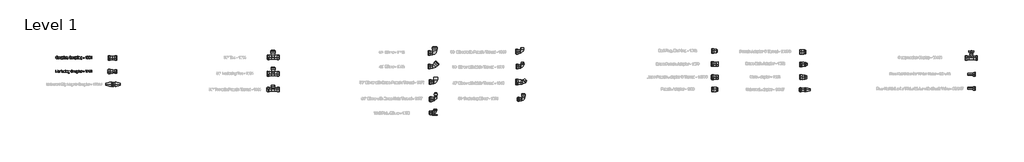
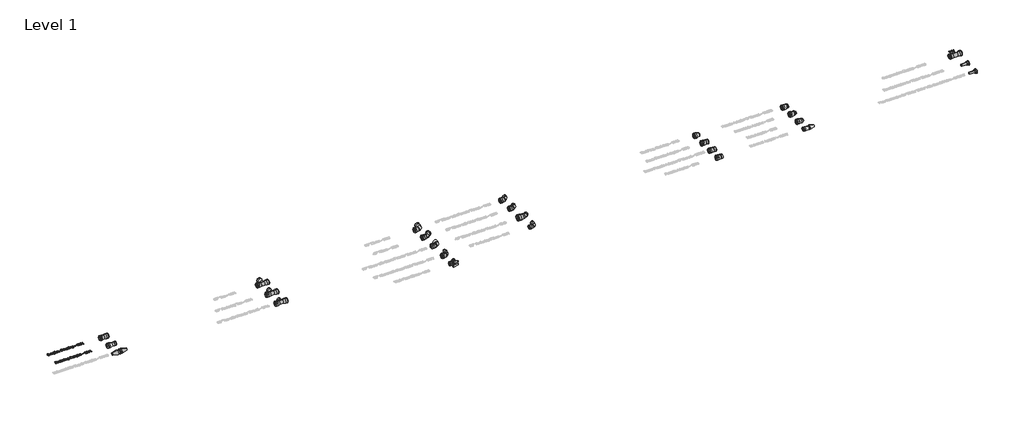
# One storey, part 1 of 13: 26 pipe fittings, 2 proxies.
"""IFC4 building model written with IfcOpenShell, lengths in millimetres."""

from ifc_helpers import new_model, si_unit, origin, origin_with_axes, place, context, project, spatial, polyline, outline, extrude, transform, mapped, element, save
from components import pipe_fitting_c75a0118, pipe_fitting_5ccf9fb8, pipe_fitting_2faa0685, pipe_fitting_6a8e1b83, pipe_fitting_50959c0b, pipe_fitting_002d9347, pipe_fitting_88a6670d, pipe_fitting_3032ae4f, pipe_fitting_b354435d, pipe_fitting_24c858a7, pipe_fitting_c59c5df5, pipe_fitting_ba8de908, pipe_fitting_30391b72, pipe_fitting_22662af9, pipe_fitting_0adbe229, pipe_fitting_8eeb2347, pipe_fitting_8a6a588a, pipe_fitting_73e57031, pipe_fitting_500e536a, pipe_fitting_9204cc5e, pipe_fitting_1734e84b, pipe_fitting_f4047568, pipe_fitting_480f6e4c, pipe_fitting_b861327e, pipe_fitting_3e52993d

model = new_model("IFC4")

# Units and contexts
model_context = context("Model", 3, world=origin())
ifc_project = project(units=[si_unit("LENGTHUNIT", "METRE", prefix="MILLI")], contexts=[model_context])

# Site, building, storey
site = spatial("IfcSite", under=ifc_project)
building = spatial("IfcBuilding", under=site)
storey = spatial("IfcBuildingStorey", under=building, Name="Level 1", Elevation=0.0)

# Proxies
placement = place(None, origin())
element("IfcBuildingElementProxy", 1, Name="30 mm Arial", ObjectType="30 mm Arial", at=placement, inside=storey, context=model_context, shape_type="SweptSolid", body=[
    extrude(outline(polyline([(8199.6821621, 4849.3979554), (8203.3744698, 4848.4460324), (8198.9970659, 4841.0001189), (8191.2662967, 4838.436417), (8183.5824025, 4840.3763208), (8179.0751909, 4845.9941093), (8177.5283159, 4853.8907439), (8179.277114, 4861.9171862), (8184.2494698, 4867.1203112), (8191.3456236, 4868.8979554), (8198.7410563, 4866.5974747), (8202.9129313, 4860.1215131), (8199.2206236, 4859.2417054), (8196.1917775, 4863.7813689), (8191.2013928, 4865.2056477), (8185.4249505, 4863.6263208), (8182.1617294, 4859.3859362), (8181.2206236, 4853.8979554), (8182.3348063, 4847.5373785), (8185.8035563, 4843.4736766), (8190.8985082, 4842.1287247), (8196.5487486, 4843.9604554), (8199.6821621, 4849.3979554)])), origin_with_axes(), (0.0, 0.0, 1.0), 5.0),
    extrude(outline(polyline([(8207.0667775, 4849.7441093), (8210.261489, 4858.6503593), (8216.7662967, 4861.0518016), (8223.7434602, 4858.1275227), (8226.4513928, 4850.0469939), (8225.2542775, 4843.4772824), (8221.7674986, 4839.7597343), (8216.7662967, 4838.436417), (8209.745864, 4841.3498785), (8207.0667775, 4849.7441093)]), holes=[polyline([(8210.7590852, 4849.7513208), (8212.4682198, 4844.0289651), (8216.7662967, 4842.1287247), (8221.0499505, 4844.0397824), (8222.7590852, 4849.8667054), (8221.0391332, 4855.4592535), (8216.7662967, 4857.3594939), (8212.4682198, 4855.4664651), (8210.7590852, 4849.7513208)])]), origin_with_axes(), (0.0, 0.0, 1.0), 5.0),
    extrude(outline(polyline([(8244.4513928, 4838.8979554), (8244.4513928, 4842.6263208), (8237.7879313, 4838.436417), (8234.3155755, 4839.1719939), (8231.9213448, 4841.0181477), (8230.8215852, 4843.7368977), (8230.605239, 4847.1695901), (8230.605239, 4860.5902631), (8234.2975467, 4860.5902631), (8234.2975467, 4848.9075708), (8234.5211044, 4845.1431477), (8235.9814409, 4842.9328112), (8238.7326428, 4842.1287247), (8241.8155755, 4842.9508401), (8243.8528352, 4845.1900227), (8244.4513928, 4849.3042054), (8244.4513928, 4860.5902631), (8248.1437005, 4860.5902631), (8248.1437005, 4838.8979554), (8244.4513928, 4838.8979554)])), origin_with_axes(), (0.0, 0.0, 1.0), 5.0),
    extrude(outline(polyline([(8253.2206236, 4830.5902631), (8253.2206236, 4860.5902631), (8256.9129313, 4860.5902631), (8256.9129313, 4856.9700708), (8259.4658159, 4860.0313689), (8262.9129313, 4861.0518016), (8267.5932198, 4859.623917), (8270.6509121, 4855.5998785), (8271.6821621, 4849.9099747), (8270.5174986, 4843.9280035), (8267.1352871, 4839.8534843), (8262.4658159, 4838.436417), (8259.2530755, 4839.3847343), (8256.9129313, 4841.7825708), (8256.9129313, 4830.5902631), (8253.2206236, 4830.5902631)]), holes=[polyline([(8256.9129313, 4849.5710324), (8258.5102871, 4843.9460324), (8262.386489, 4842.1287247), (8266.3420178, 4844.0109362), (8267.9898544, 4849.8450708), (8266.3816813, 4855.4844939), (8262.5379313, 4857.3594939), (8258.6184602, 4855.3655035), (8256.9129313, 4849.5710324)])]), origin_with_axes(), (0.0, 0.0, 1.0), 5.0),
    extrude(outline(polyline([(8275.8360082, 4838.8979554), (8275.8360082, 4868.436417), (8279.5283159, 4868.436417), (8279.5283159, 4838.8979554), (8275.8360082, 4838.8979554)])), origin_with_axes(), (0.0, 0.0, 1.0), 5.0),
    extrude(outline(polyline([(8300.2542775, 4845.3594939), (8303.8744698, 4844.8979554), (8300.4886525, 4840.1311285), (8294.1821621, 4838.436417), (8286.5162967, 4841.3606958), (8283.6821621, 4849.5638208), (8286.5451428, 4858.0373785), (8293.9730275, 4861.0518016), (8301.1881717, 4858.0445901), (8303.9898544, 4849.5854554), (8287.3744698, 4848.5902631), (8289.4982678, 4843.7945901), (8294.2542775, 4842.1287247), (8297.8744698, 4842.9003593), (8300.2542775, 4845.3594939)]), holes=[polyline([(8287.3744698, 4852.2825708), (8300.2975467, 4852.2825708), (8298.8191813, 4855.6287247), (8293.9586044, 4857.3594939), (8289.4117294, 4855.9784843), (8287.3744698, 4852.2825708)])]), origin_with_axes(), (0.0, 0.0, 1.0), 5.0),
    extrude(outline(polyline([(8307.6821621, 4838.8979554), (8307.6821621, 4860.5902631), (8310.9129313, 4860.5902631), (8310.9129313, 4857.3811285), (8313.2062005, 4860.3378593), (8315.5138928, 4861.0518016), (8319.2206236, 4859.9123785), (8317.9874505, 4856.6022824), (8315.3912967, 4857.3594939), (8313.3035563, 4856.6311285), (8311.9730275, 4854.6118977), (8311.3744698, 4850.2993977), (8311.3744698, 4838.8979554), (8307.6821621, 4838.8979554)])), origin_with_axes(), (0.0, 0.0, 1.0), 5.0),
    extrude(outline(polyline([(8322.4513928, 4838.8979554), (8322.4513928, 4842.5902631), (8326.1437005, 4842.5902631), (8326.1437005, 4838.8979554), (8325.480239, 4835.1227151), (8323.3744698, 4832.8979554), (8322.4513928, 4834.2825708), (8323.8071621, 4835.8763208), (8324.2903352, 4838.8979554), (8322.4513928, 4838.8979554)])), origin_with_axes(), (0.0, 0.0, 1.0), 5.0),
    extrude(outline(polyline([(8365.8360082, 4849.3979554), (8369.5283159, 4848.4460324), (8365.1509121, 4841.0001189), (8357.4201428, 4838.436417), (8349.7362486, 4840.3763208), (8345.2290371, 4845.9941093), (8343.6821621, 4853.8907439), (8345.4309602, 4861.9171862), (8350.4033159, 4867.1203112), (8357.4994698, 4868.8979554), (8364.8949025, 4866.5974747), (8369.0667775, 4860.1215131), (8365.3744698, 4859.2417054), (8362.3456236, 4863.7813689), (8357.355239, 4865.2056477), (8351.5787967, 4863.6263208), (8348.3155755, 4859.3859362), (8347.3744698, 4853.8979554), (8348.4886525, 4847.5373785), (8351.9574025, 4843.4736766), (8357.0523544, 4842.1287247), (8362.7025948, 4843.9604554), (8365.8360082, 4849.3979554)])), origin_with_axes(), (0.0, 0.0, 1.0), 5.0),
    extrude(outline(polyline([(8373.2206236, 4849.7441093), (8376.4153352, 4858.6503593), (8382.9201428, 4861.0518016), (8389.8973063, 4858.1275227), (8392.605239, 4850.0469939), (8391.4081236, 4843.4772824), (8387.9213448, 4839.7597343), (8382.9201428, 4838.436417), (8375.8997102, 4841.3498785), (8373.2206236, 4849.7441093)]), holes=[polyline([(8376.9129313, 4849.7513208), (8378.6220659, 4844.0289651), (8382.9201428, 4842.1287247), (8387.2037967, 4844.0397824), (8388.9129313, 4849.8667054), (8387.1929794, 4855.4592535), (8382.9201428, 4857.3594939), (8378.6220659, 4855.4664651), (8376.9129313, 4849.7513208)])]), origin_with_axes(), (0.0, 0.0, 1.0), 5.0),
    extrude(outline(polyline([(8410.605239, 4838.8979554), (8410.605239, 4842.6263208), (8403.9417775, 4838.436417), (8400.4694217, 4839.1719939), (8398.0751909, 4841.0181477), (8396.9754313, 4843.7368977), (8396.7590852, 4847.1695901), (8396.7590852, 4860.5902631), (8400.4513928, 4860.5902631), (8400.4513928, 4848.9075708), (8400.6749505, 4845.1431477), (8402.1352871, 4842.9328112), (8404.886489, 4842.1287247), (8407.9694217, 4842.9508401), (8410.0066813, 4845.1900227), (8410.605239, 4849.3042054), (8410.605239, 4860.5902631), (8414.2975467, 4860.5902631), (8414.2975467, 4838.8979554), (8410.605239, 4838.8979554)])), origin_with_axes(), (0.0, 0.0, 1.0), 5.0),
    extrude(outline(polyline([(8419.3744698, 4830.5902631), (8419.3744698, 4860.5902631), (8423.0667775, 4860.5902631), (8423.0667775, 4856.9700708), (8425.6196621, 4860.0313689), (8429.0667775, 4861.0518016), (8433.7470659, 4859.623917), (8436.8047582, 4855.5998785), (8437.8360082, 4849.9099747), (8436.6713448, 4843.9280035), (8433.2891332, 4839.8534843), (8428.6196621, 4838.436417), (8425.4069217, 4839.3847343), (8423.0667775, 4841.7825708), (8423.0667775, 4830.5902631), (8419.3744698, 4830.5902631)]), holes=[polyline([(8423.0667775, 4849.5710324), (8424.6641332, 4843.9460324), (8428.5403352, 4842.1287247), (8432.495864, 4844.0109362), (8434.1437005, 4849.8450708), (8432.5355275, 4855.4844939), (8428.6917775, 4857.3594939), (8424.7723063, 4855.3655035), (8423.0667775, 4849.5710324)])]), origin_with_axes(), (0.0, 0.0, 1.0), 5.0),
    extrude(outline(polyline([(8441.9898544, 4838.8979554), (8441.9898544, 4868.436417), (8445.6821621, 4868.436417), (8445.6821621, 4838.8979554), (8441.9898544, 4838.8979554)])), origin_with_axes(), (0.0, 0.0, 1.0), 5.0),
    extrude(outline(polyline([(8451.2206236, 4838.8979554), (8451.2206236, 4860.5902631), (8454.9129313, 4860.5902631), (8454.9129313, 4838.8979554), (8451.2206236, 4838.8979554)])), origin_with_axes(), (0.0, 0.0, 1.0), 5.0),
    extrude(outline(polyline([(8451.2206236, 4864.7441093), (8451.2206236, 4868.436417), (8454.9129313, 4868.436417), (8454.9129313, 4864.7441093), (8451.2206236, 4864.7441093)])), origin_with_axes(), (0.0, 0.0, 1.0), 5.0),
    extrude(outline(polyline([(8460.4513928, 4838.8979554), (8460.4513928, 4860.5902631), (8464.1437005, 4860.5902631), (8464.1437005, 4857.561417), (8470.8215852, 4861.0518016), (8474.308364, 4860.3486766), (8476.6881717, 4858.5025227), (8477.7951428, 4855.7873785), (8477.9898544, 4852.217667), (8477.9898544, 4838.8979554), (8474.2975467, 4838.8979554), (8474.2975467, 4851.7200708), (8473.8720659, 4854.9868977), (8472.3684602, 4856.7140612), (8469.8336044, 4857.3594939), (8465.8275948, 4855.9099747), (8464.1437005, 4850.4075708), (8464.1437005, 4838.8979554), (8460.4513928, 4838.8979554)])), origin_with_axes(), (0.0, 0.0, 1.0), 5.0),
    extrude(outline(polyline([(8482.1437005, 4837.0518016), (8485.8360082, 4836.5902631), (8487.0331236, 4834.6431477), (8490.6172582, 4833.8210324), (8494.3961044, 4834.7513208), (8496.198989, 4837.3618977), (8496.4513928, 4841.6671862), (8490.6821621, 4838.8979554), (8484.0367294, 4842.1215131), (8481.6821621, 4849.8522824), (8482.7386525, 4855.5746381), (8485.7963448, 4859.623917), (8490.5018736, 4861.0518016), (8496.4513928, 4857.8210324), (8496.4513928, 4860.5902631), (8500.1437005, 4860.5902631), (8500.1437005, 4841.8618977), (8499.1340852, 4834.6900227), (8495.9357678, 4831.3546862), (8490.5451428, 4830.1287247), (8484.4045178, 4831.8558881), (8482.1437005, 4837.0518016)]), holes=[polyline([(8485.3744698, 4850.1046862), (8486.9501909, 4844.389542), (8490.9057198, 4842.5902631), (8494.8540371, 4844.3787247), (8496.4513928, 4849.9965131), (8494.8071621, 4855.5025227), (8490.8480275, 4857.3594939), (8486.9718255, 4855.5313689), (8485.3744698, 4850.1046862)])]), origin_with_axes(), (0.0, 0.0, 1.0), 5.0),
    extrude(outline(polyline([(8515.3744698, 4847.6671862), (8515.3744698, 4851.3594939), (8526.9129313, 4851.3594939), (8526.9129313, 4847.6671862), (8515.3744698, 4847.6671862)])), origin_with_axes(), (0.0, 0.0, 1.0), 5.0),
    extrude(outline(polyline([(8555.5283159, 4838.8979554), (8551.8360082, 4838.8979554), (8551.8360082, 4861.9171862), (8548.3384121, 4859.4255997), (8544.4513928, 4857.561417), (8544.4513928, 4861.0518016), (8549.8636525, 4864.5061285), (8553.1485082, 4868.436417), (8555.5283159, 4868.436417), (8555.5283159, 4838.8979554)])), origin_with_axes(), (0.0, 0.0, 1.0), 5.0),
    extrude(outline(polyline([(8564.2975467, 4853.4292054), (8565.3828832, 4861.9280035), (8568.6064409, 4866.8282439), (8573.9898544, 4868.436417), (8578.3023544, 4867.4844939), (8581.2807198, 4864.7405035), (8583.011489, 4860.3703112), (8583.6821621, 4853.4292054), (8582.6076428, 4844.9664651), (8579.3949025, 4840.0554074), (8573.9898544, 4838.436417), (8567.2398544, 4841.248917), (8564.2975467, 4853.4292054)]), holes=[polyline([(8567.9898544, 4853.436417), (8569.7206236, 4844.2669458), (8573.9898544, 4842.1287247), (8578.2590852, 4844.2741574), (8579.9898544, 4853.436417), (8578.3167775, 4862.5013208), (8573.9465852, 4864.7441093), (8569.7783159, 4862.7681477), (8567.9898544, 4853.436417)])]), origin_with_axes(), (0.0, 0.0, 1.0), 5.0),
    extrude(outline(polyline([(8586.9129313, 4853.4292054), (8587.9982678, 4861.9280035), (8591.2218255, 4866.8282439), (8596.605239, 4868.436417), (8600.917739, 4867.4844939), (8603.8961044, 4864.7405035), (8605.6268736, 4860.3703112), (8606.2975467, 4853.4292054), (8605.2230275, 4844.9664651), (8602.0102871, 4840.0554074), (8596.605239, 4838.436417), (8589.855239, 4841.248917), (8586.9129313, 4853.4292054)]), holes=[polyline([(8590.605239, 4853.436417), (8592.3360082, 4844.2669458), (8596.605239, 4842.1287247), (8600.8744698, 4844.2741574), (8602.605239, 4853.436417), (8600.9321621, 4862.5013208), (8596.5619698, 4864.7441093), (8592.3937005, 4862.7681477), (8590.605239, 4853.436417)])]), origin_with_axes(), (0.0, 0.0, 1.0), 5.0),
    extrude(outline(polyline([(8623.3744698, 4838.8979554), (8619.6821621, 4838.8979554), (8619.6821621, 4861.9171862), (8616.1845659, 4859.4255997), (8612.2975467, 4857.561417), (8612.2975467, 4861.0518016), (8617.7098063, 4864.5061285), (8620.9946621, 4868.436417), (8623.3744698, 4868.436417), (8623.3744698, 4838.8979554)])), origin_with_axes(), (0.0, 0.0, 1.0), 5.0),
])
element("IfcBuildingElementProxy", 2, Name="30 mm Arial", ObjectType="30 mm Arial", at=placement, inside=storey, context=model_context, shape_type="SweptSolid", body=[
    extrude(outline(polyline([(8178.9129313, 4668.8979554), (8178.9129313, 4698.436417), (8191.6412967, 4698.436417), (8197.5511525, 4697.639542), (8200.7819217, 4694.8198304), (8201.9898544, 4690.3522824), (8199.9886525, 4685.030167), (8193.8047582, 4682.2825708), (8195.9033159, 4680.7032439), (8198.8961044, 4676.9027631), (8203.8215852, 4668.8979554), (8199.5307198, 4668.8979554), (8195.6869698, 4675.0205516), (8192.9105275, 4679.0734362), (8190.9598063, 4680.9880997), (8189.2037967, 4681.6912247), (8187.0619698, 4681.8210324), (8182.605239, 4681.8210324), (8182.605239, 4668.8979554), (8178.9129313, 4668.8979554)]), holes=[polyline([(8182.605239, 4685.5133401), (8190.8696621, 4685.5133401), (8195.0848063, 4686.0361766), (8197.4790371, 4687.7092535), (8198.2975467, 4690.2152631), (8196.7362486, 4693.467667), (8191.7999505, 4694.7441093), (8182.605239, 4694.7441093), (8182.605239, 4685.5133401)])]), origin_with_axes(), (0.0, 0.0, 1.0), 5.0),
    extrude(outline(polyline([(8223.1773544, 4675.3594939), (8226.7975467, 4674.8979554), (8223.4117294, 4670.1311285), (8217.105239, 4668.436417), (8209.4393736, 4671.3606958), (8206.605239, 4679.5638208), (8209.4682198, 4688.0373785), (8216.8961044, 4691.0518016), (8224.1112486, 4688.0445901), (8226.9129313, 4679.5854554), (8210.2975467, 4678.5902631), (8212.4213448, 4673.7945901), (8217.1773544, 4672.1287247), (8220.7975467, 4672.9003593), (8223.1773544, 4675.3594939)]), holes=[polyline([(8210.2975467, 4682.2825708), (8223.2206236, 4682.2825708), (8221.7422582, 4685.6287247), (8216.8816813, 4687.3594939), (8212.3348063, 4685.9784843), (8210.2975467, 4682.2825708)])]), origin_with_axes(), (0.0, 0.0, 1.0), 5.0),
    extrude(outline(polyline([(8243.9898544, 4668.8979554), (8243.9898544, 4672.3811285), (8238.1701428, 4668.436417), (8233.5980275, 4669.8643016), (8230.3672582, 4673.8486766), (8229.2206236, 4679.7224747), (8230.277114, 4685.5998785), (8233.4429794, 4689.6455516), (8238.1557198, 4691.0518016), (8241.5595659, 4690.045792), (8243.9898544, 4687.4316093), (8243.9898544, 4698.436417), (8247.6821621, 4698.436417), (8247.6821621, 4668.8979554), (8243.9898544, 4668.8979554)]), holes=[polyline([(8232.9129313, 4679.7368977), (8234.5787967, 4674.0217535), (8238.5090852, 4672.1287247), (8242.3924986, 4673.9352151), (8243.9898544, 4679.4556477), (8242.3636525, 4685.4484362), (8238.3576428, 4687.3594939), (8234.4706236, 4685.5241574), (8232.9129313, 4679.7368977)])]), origin_with_axes(), (0.0, 0.0, 1.0), 5.0),
    extrude(outline(polyline([(8267.0667775, 4668.8979554), (8267.0667775, 4672.6263208), (8260.4033159, 4668.436417), (8256.9309602, 4669.1719939), (8254.5367294, 4671.0181477), (8253.4369698, 4673.7368977), (8253.2206236, 4677.1695901), (8253.2206236, 4690.5902631), (8256.9129313, 4690.5902631), (8256.9129313, 4678.9075708), (8257.136489, 4675.1431477), (8258.5968255, 4672.9328112), (8261.3480275, 4672.1287247), (8264.4309602, 4672.9508401), (8266.4682198, 4675.1900227), (8267.0667775, 4679.3042054), (8267.0667775, 4690.5902631), (8270.7590852, 4690.5902631), (8270.7590852, 4668.8979554), (8267.0667775, 4668.8979554)])), origin_with_axes(), (0.0, 0.0, 1.0), 5.0),
    extrude(outline(polyline([(8289.6821621, 4676.7441093), (8293.3744698, 4676.2825708), (8290.4105275, 4670.5169458), (8284.5547582, 4668.436417), (8277.5559602, 4671.3390612), (8274.9129313, 4679.6647824), (8276.0415371, 4685.7981958), (8279.4814409, 4689.7393016), (8284.5042775, 4691.0518016), (8290.1184602, 4689.248917), (8292.9129313, 4684.1287247), (8289.2206236, 4683.6671862), (8287.5078832, 4686.4328112), (8284.5331236, 4687.3594939), (8280.2530755, 4685.5349747), (8278.605239, 4679.7657439), (8280.2170178, 4673.9424266), (8284.4321621, 4672.1287247), (8287.9117294, 4673.2609362), (8289.6821621, 4676.7441093)])), origin_with_axes(), (0.0, 0.0, 1.0), 5.0),
    extrude(outline(polyline([(8296.605239, 4694.7441093), (8296.605239, 4698.436417), (8300.2975467, 4698.436417), (8300.2975467, 4694.7441093), (8296.605239, 4694.7441093)])), origin_with_axes(), (0.0, 0.0, 1.0), 5.0),
    extrude(outline(polyline([(8296.605239, 4668.8979554), (8296.605239, 4690.5902631), (8300.2975467, 4690.5902631), (8300.2975467, 4668.8979554), (8296.605239, 4668.8979554)])), origin_with_axes(), (0.0, 0.0, 1.0), 5.0),
    extrude(outline(polyline([(8305.8360082, 4668.8979554), (8305.8360082, 4690.5902631), (8309.5283159, 4690.5902631), (8309.5283159, 4687.561417), (8316.2062005, 4691.0518016), (8319.6929794, 4690.3486766), (8322.0727871, 4688.5025227), (8323.1797582, 4685.7873785), (8323.3744698, 4682.217667), (8323.3744698, 4668.8979554), (8319.6821621, 4668.8979554), (8319.6821621, 4681.7200708), (8319.2566813, 4684.9868977), (8317.7530755, 4686.7140612), (8315.2182198, 4687.3594939), (8311.2122102, 4685.9099747), (8309.5283159, 4680.4075708), (8309.5283159, 4668.8979554), (8305.8360082, 4668.8979554)])), origin_with_axes(), (0.0, 0.0, 1.0), 5.0),
    extrude(outline(polyline([(8327.5283159, 4667.0518016), (8331.2206236, 4666.5902631), (8332.417739, 4664.6431477), (8336.0018736, 4663.8210324), (8339.7807198, 4664.7513208), (8341.5836044, 4667.3618977), (8341.8360082, 4671.6671862), (8336.0667775, 4668.8979554), (8329.4213448, 4672.1215131), (8327.0667775, 4679.8522824), (8328.1232678, 4685.5746381), (8331.1809602, 4689.623917), (8335.886489, 4691.0518016), (8341.8360082, 4687.8210324), (8341.8360082, 4690.5902631), (8345.5283159, 4690.5902631), (8345.5283159, 4671.8618977), (8344.5187005, 4664.6900227), (8341.3203832, 4661.3546862), (8335.9297582, 4660.1287247), (8329.7891332, 4661.8558881), (8327.5283159, 4667.0518016)]), holes=[polyline([(8330.7590852, 4680.1046862), (8332.3348063, 4674.389542), (8336.2903352, 4672.5902631), (8340.2386525, 4674.3787247), (8341.8360082, 4679.9965131), (8340.1917775, 4685.5025227), (8336.2326428, 4687.3594939), (8332.3564409, 4685.5313689), (8330.7590852, 4680.1046862)])]), origin_with_axes(), (0.0, 0.0, 1.0), 5.0),
    extrude(outline(polyline([(8383.8360082, 4679.3979554), (8387.5283159, 4678.4460324), (8383.1509121, 4671.0001189), (8375.4201428, 4668.436417), (8367.7362486, 4670.3763208), (8363.2290371, 4675.9941093), (8361.6821621, 4683.8907439), (8363.4309602, 4691.9171862), (8368.4033159, 4697.1203112), (8375.4994698, 4698.8979554), (8382.8949025, 4696.5974747), (8387.0667775, 4690.1215131), (8383.3744698, 4689.2417054), (8380.3456236, 4693.7813689), (8375.355239, 4695.2056477), (8369.5787967, 4693.6263208), (8366.3155755, 4689.3859362), (8365.3744698, 4683.8979554), (8366.4886525, 4677.5373785), (8369.9574025, 4673.4736766), (8375.0523544, 4672.1287247), (8380.7025948, 4673.9604554), (8383.8360082, 4679.3979554)])), origin_with_axes(), (0.0, 0.0, 1.0), 5.0),
    extrude(outline(polyline([(8391.2206236, 4679.7441093), (8394.4153352, 4688.6503593), (8400.9201428, 4691.0518016), (8407.8973063, 4688.1275227), (8410.605239, 4680.0469939), (8409.4081236, 4673.4772824), (8405.9213448, 4669.7597343), (8400.9201428, 4668.436417), (8393.8997102, 4671.3498785), (8391.2206236, 4679.7441093)]), holes=[polyline([(8394.9129313, 4679.7513208), (8396.6220659, 4674.0289651), (8400.9201428, 4672.1287247), (8405.2037967, 4674.0397824), (8406.9129313, 4679.8667054), (8405.1929794, 4685.4592535), (8400.9201428, 4687.3594939), (8396.6220659, 4685.4664651), (8394.9129313, 4679.7513208)])]), origin_with_axes(), (0.0, 0.0, 1.0), 5.0),
    extrude(outline(polyline([(8428.605239, 4668.8979554), (8428.605239, 4672.6263208), (8421.9417775, 4668.436417), (8418.4694217, 4669.1719939), (8416.0751909, 4671.0181477), (8414.9754313, 4673.7368977), (8414.7590852, 4677.1695901), (8414.7590852, 4690.5902631), (8418.4513928, 4690.5902631), (8418.4513928, 4678.9075708), (8418.6749505, 4675.1431477), (8420.1352871, 4672.9328112), (8422.886489, 4672.1287247), (8425.9694217, 4672.9508401), (8428.0066813, 4675.1900227), (8428.605239, 4679.3042054), (8428.605239, 4690.5902631), (8432.2975467, 4690.5902631), (8432.2975467, 4668.8979554), (8428.605239, 4668.8979554)])), origin_with_axes(), (0.0, 0.0, 1.0), 5.0),
    extrude(outline(polyline([(8437.3744698, 4660.5902631), (8437.3744698, 4690.5902631), (8441.0667775, 4690.5902631), (8441.0667775, 4686.9700708), (8443.6196621, 4690.0313689), (8447.0667775, 4691.0518016), (8451.7470659, 4689.623917), (8454.8047582, 4685.5998785), (8455.8360082, 4679.9099747), (8454.6713448, 4673.9280035), (8451.2891332, 4669.8534843), (8446.6196621, 4668.436417), (8443.4069217, 4669.3847343), (8441.0667775, 4671.7825708), (8441.0667775, 4660.5902631), (8437.3744698, 4660.5902631)]), holes=[polyline([(8441.0667775, 4679.5710324), (8442.6641332, 4673.9460324), (8446.5403352, 4672.1287247), (8450.495864, 4674.0109362), (8452.1437005, 4679.8450708), (8450.5355275, 4685.4844939), (8446.6917775, 4687.3594939), (8442.7723063, 4685.3655035), (8441.0667775, 4679.5710324)])]), origin_with_axes(), (0.0, 0.0, 1.0), 5.0),
    extrude(outline(polyline([(8459.9898544, 4668.8979554), (8459.9898544, 4698.436417), (8463.6821621, 4698.436417), (8463.6821621, 4668.8979554), (8459.9898544, 4668.8979554)])), origin_with_axes(), (0.0, 0.0, 1.0), 5.0),
    extrude(outline(polyline([(8484.4081236, 4675.3594939), (8488.0283159, 4674.8979554), (8484.6424986, 4670.1311285), (8478.3360082, 4668.436417), (8470.6701428, 4671.3606958), (8467.8360082, 4679.5638208), (8470.698989, 4688.0373785), (8478.1268736, 4691.0518016), (8485.3420178, 4688.0445901), (8488.1437005, 4679.5854554), (8471.5283159, 4678.5902631), (8473.652114, 4673.7945901), (8478.4081236, 4672.1287247), (8482.0283159, 4672.9003593), (8484.4081236, 4675.3594939)]), holes=[polyline([(8471.5283159, 4682.2825708), (8484.4513928, 4682.2825708), (8482.9730275, 4685.6287247), (8478.1124505, 4687.3594939), (8473.5655755, 4685.9784843), (8471.5283159, 4682.2825708)])]), origin_with_axes(), (0.0, 0.0, 1.0), 5.0),
    extrude(outline(polyline([(8491.8360082, 4668.8979554), (8491.8360082, 4690.5902631), (8495.0667775, 4690.5902631), (8495.0667775, 4687.3811285), (8497.3600467, 4690.3378593), (8499.667739, 4691.0518016), (8503.3744698, 4689.9123785), (8502.1412967, 4686.6022824), (8499.5451428, 4687.3594939), (8497.4574025, 4686.6311285), (8496.1268736, 4684.6118977), (8495.5283159, 4680.2993977), (8495.5283159, 4668.8979554), (8491.8360082, 4668.8979554)])), origin_with_axes(), (0.0, 0.0, 1.0), 5.0),
    extrude(outline(polyline([(8515.3744698, 4677.6671862), (8515.3744698, 4681.3594939), (8526.9129313, 4681.3594939), (8526.9129313, 4677.6671862), (8515.3744698, 4677.6671862)])), origin_with_axes(), (0.0, 0.0, 1.0), 5.0),
    extrude(outline(polyline([(8555.5283159, 4668.8979554), (8551.8360082, 4668.8979554), (8551.8360082, 4691.9171862), (8548.3384121, 4689.4255997), (8544.4513928, 4687.561417), (8544.4513928, 4691.0518016), (8549.8636525, 4694.5061285), (8553.1485082, 4698.436417), (8555.5283159, 4698.436417), (8555.5283159, 4668.8979554)])), origin_with_axes(), (0.0, 0.0, 1.0), 5.0),
    extrude(outline(polyline([(8564.2975467, 4683.4292054), (8565.3828832, 4691.9280035), (8568.6064409, 4696.8282439), (8573.9898544, 4698.436417), (8578.3023544, 4697.4844939), (8581.2807198, 4694.7405035), (8583.011489, 4690.3703112), (8583.6821621, 4683.4292054), (8582.6076428, 4674.9664651), (8579.3949025, 4670.0554074), (8573.9898544, 4668.436417), (8567.2398544, 4671.248917), (8564.2975467, 4683.4292054)]), holes=[polyline([(8567.9898544, 4683.436417), (8569.7206236, 4674.2669458), (8573.9898544, 4672.1287247), (8578.2590852, 4674.2741574), (8579.9898544, 4683.436417), (8578.3167775, 4692.5013208), (8573.9465852, 4694.7441093), (8569.7783159, 4692.7681477), (8567.9898544, 4683.436417)])]), origin_with_axes(), (0.0, 0.0, 1.0), 5.0),
    extrude(outline(polyline([(8600.7590852, 4668.8979554), (8597.0667775, 4668.8979554), (8597.0667775, 4691.9171862), (8593.5691813, 4689.4255997), (8589.6821621, 4687.561417), (8589.6821621, 4691.0518016), (8595.0944217, 4694.5061285), (8598.3792775, 4698.436417), (8600.7590852, 4698.436417), (8600.7590852, 4668.8979554)])), origin_with_axes(), (0.0, 0.0, 1.0), 5.0),
    extrude(outline(polyline([(8623.3744698, 4668.8979554), (8619.6821621, 4668.8979554), (8619.6821621, 4691.9171862), (8616.1845659, 4689.4255997), (8612.2975467, 4687.561417), (8612.2975467, 4691.0518016), (8617.7098063, 4694.5061285), (8620.9946621, 4698.436417), (8623.3744698, 4698.436417), (8623.3744698, 4668.8979554)])), origin_with_axes(), (0.0, 0.0, 1.0), 5.0),
])

# Pipe fittings
pipe_fitting_shape = pipe_fitting_c75a0118(model_context)
element("IfcPipeFitting", 3, ObjectType="Plumbing_Pipe-Fittings_Plasson_Elbow-45_1006 : Plumbing_Pipe-Fittings_Plasson_Elbow-45_1006", at=placement, inside=storey, context=model_context, shape_type="MappedRepresentation", body=[
    mapped(pipe_fitting_shape, transform((12851.5096309, 4743.4691806, 0.0), x_axis=(1.0, 0.0, 0.0), y_axis=(0.0, 1.0, 0.0), z_axis=(0.0, 0.0, 1.0))),
])
pipe_fitting_2_shape = pipe_fitting_5ccf9fb8(model_context)
element("IfcPipeFitting", 4, ObjectType="Plumbing_Pipe-Fittings_Plasson_Elbow-45-with-Threaded-Male-Offtake_1045 : Plumbing_Pipe-Fittings_Plasson_Elbow-45-with-Threaded-Male-Offtake_1045", at=placement, inside=storey, context=model_context, shape_type="MappedRepresentation", body=[
    mapped(pipe_fitting_2_shape, transform((13962.4453678, 4549.1120972, 0.0), x_axis=(1.0, 0.0, 0.0), y_axis=(0.0, 1.0, 0.0), z_axis=(0.0, 0.0, 1.0))),
])
pipe_fitting_3_shape = pipe_fitting_2faa0685(model_context)
element("IfcPipeFitting", 5, ObjectType="Plumbing_Pipe-Fittings_Plasson_Elbow-90-with-Threaded-Brass-Female-Offtake_1076 : Plumbing_Pipe-Fittings_Plasson_Elbow-90-with-Threaded-Brass-Female-Offtake_1076", at=placement, inside=storey, context=model_context, shape_type="MappedRepresentation", body=[
    mapped(pipe_fitting_3_shape, transform((12875.4709403, 4550.9742181, 0.0), x_axis=(1.0, 0.0, 0.0), y_axis=(0.0, 1.0, 0.0), z_axis=(0.0, 0.0, 1.0))),
])
pipe_fitting_4_shape = pipe_fitting_6a8e1b83(model_context)
element("IfcPipeFitting", 6, ObjectType="Plumbing_Pipe-Fittings_Plasson_Elbow-90-with-Threaded-Brass-Male-Offtake_1077 : Plumbing_Pipe-Fittings_Plasson_Elbow-90-with-Threaded-Brass-Male-Offtake_1077", at=placement, inside=storey, context=model_context, shape_type="MappedRepresentation", body=[
    mapped(pipe_fitting_4_shape, transform((12879.1572956, 4338.4792556, 0.0), x_axis=(1.0, 0.0, 0.0), y_axis=(0.0, 1.0, 0.0), z_axis=(0.0, 0.0, 1.0))),
])
pipe_fitting_5_shape = pipe_fitting_50959c0b(model_context)
element("IfcPipeFitting", 7, ObjectType="Plumbing_Pipe-Fittings_Plasson_Reducing-Elbow-90_1051 : Plumbing_Pipe-Fittings_Plasson_Reducing-Elbow-90_1051", at=placement, inside=storey, context=model_context, shape_type="MappedRepresentation", body=[
    mapped(pipe_fitting_5_shape, transform((13962.7565138, 4337.3701847, 0.0), x_axis=(1.0, 0.0, 0.0), y_axis=(0.0, 1.0, 0.0), z_axis=(0.0, 0.0, 1.0))),
])
pipe_fitting_6_shape = pipe_fitting_002d9347(model_context)
element("IfcPipeFitting", 8, ObjectType="Plumbing_Pipe-Fittings_Plasson_Universal-Adaptor_10017 : Plumbing_Pipe-Fittings_Plasson_Universal-Adaptor_10017", at=placement, inside=storey, context=model_context, shape_type="MappedRepresentation", body=[
    mapped(pipe_fitting_6_shape, transform((17446.4553711, 4455.1830816, 0.0), x_axis=(-1.0, 0.0, 0.0), y_axis=(0.0, -1.0, 0.0), z_axis=(0.0, 0.0, 1.0))),
])
pipe_fitting_7_shape = pipe_fitting_88a6670d(model_context)
element("IfcPipeFitting", 9, ObjectType="Plumbing_Pipe-Fittings_Plasson_Universal-Slip-Repair-Coupler_17610 : Plumbing_Pipe-Fittings_Plasson_Universal-Slip-Repair-Coupler_17610", at=placement, inside=storey, context=model_context, shape_type="MappedRepresentation", body=[
    mapped(pipe_fitting_7_shape, transform((8884.7510299, 4523.1823888, 0.0), x_axis=(1.0, 0.0, 0.0), y_axis=(0.0, 1.0, 0.0), z_axis=(0.0, 0.0, 1.0))),
])
pipe_fitting_8_shape = pipe_fitting_3032ae4f(model_context)
element("IfcPipeFitting", 10, ObjectType="Plumbing_Pipe-Fittings_Plasson_End-Plug_1012 : Plumbing_Pipe-Fittings_Plasson_End-Plug_1012", at=placement, inside=storey, context=model_context, shape_type="MappedRepresentation", body=[
    mapped(pipe_fitting_8_shape, transform((16358.8051065, 4934.7103955, 0.0), x_axis=(-1.0, 0.0, 0.0), y_axis=(0.0, -1.0, 0.0), z_axis=(0.0, 0.0, 1.0))),
])
pipe_fitting_9_shape = pipe_fitting_b354435d(model_context)
element("IfcPipeFitting", 11, ObjectType="Plumbing_Pipe-Fittings_Plasson_Elbow-90_1005 : Plumbing_Pipe-Fittings_Plasson_Elbow-90_1005", at=placement, inside=storey, context=model_context, shape_type="MappedRepresentation", body=[
    mapped(pipe_fitting_9_shape, transform((12864.9617468, 4908.4922071, 0.0), x_axis=(1.0, 0.0, 0.0), y_axis=(0.0, 1.0, 0.0), z_axis=(0.0, 0.0, 1.0))),
])
pipe_fitting_10_shape = pipe_fitting_24c858a7(model_context)
element("IfcPipeFitting", 12, ObjectType="Plumbing_Pipe-Fittings_Plasson_Elbow-90-with-Threaded-Female-Offtake_1015 : Plumbing_Pipe-Fittings_Plasson_Elbow-90-with-Threaded-Female-Offtake_1015", at=placement, inside=storey, context=model_context, shape_type="MappedRepresentation", body=[
    mapped(pipe_fitting_10_shape, transform((13948.471147, 4926.2664682, 0.0), x_axis=(1.0, 0.0, 0.0), y_axis=(0.0, 1.0, 0.0), z_axis=(0.0, 0.0, 1.0))),
])
pipe_fitting_11_shape = pipe_fitting_c59c5df5(model_context)
element("IfcPipeFitting", 13, ObjectType="Plumbing_Pipe-Fittings_Plasson_Elbow-90-with-Threaded-Male-Offtake_1085 : Plumbing_Pipe-Fittings_Plasson_Elbow-90-with-Threaded-Male-Offtake_1085", at=placement, inside=storey, context=model_context, shape_type="MappedRepresentation", body=[
    mapped(pipe_fitting_11_shape, transform((13951.6326754, 4743.7284758, 0.0), x_axis=(1.0, 0.0, 0.0), y_axis=(0.0, 1.0, 0.0), z_axis=(0.0, 0.0, 1.0))),
])
pipe_fitting_12_shape = pipe_fitting_ba8de908(model_context)
element("IfcPipeFitting", 14, ObjectType="Plumbing_Pipe-Fittings_Plasson_Female Adaptor-with-Threaded-Brass-Offtake_1073 : Plumbing_Pipe-Fittings_Plasson_Female Adaptor-with-Threaded-Brass-Offtake_1073", at=placement, inside=storey, context=model_context, shape_type="MappedRepresentation", body=[
    mapped(pipe_fitting_12_shape, transform((16372.3333274, 4773.1976934, 0.0), x_axis=(1.0, 0.0, 0.0), y_axis=(0.0, 1.0, 0.0), z_axis=(0.0, 0.0, 1.0))),
])
pipe_fitting_13_shape = pipe_fitting_30391b72(model_context)
element("IfcPipeFitting", 15, ObjectType="Plumbing_Pipe-Fittings_Plasson_Female-Adaptor-with-Threaded-G-Brass-Offtake_1073G : Plumbing_Pipe-Fittings_Plasson_Female-Adaptor-with-Threaded-G-Brass-Offtake_1073G", at=placement, inside=storey, context=model_context, shape_type="MappedRepresentation", body=[
    mapped(pipe_fitting_13_shape, transform((16373.4004914, 4610.1750549, 0.0), x_axis=(1.0, 0.0, 0.0), y_axis=(0.0, 1.0, 0.0), z_axis=(0.0, 0.0, 1.0))),
])
pipe_fitting_14_shape = pipe_fitting_22662af9(model_context)
element("IfcPipeFitting", 16, ObjectType="Plumbing_Pipe-Fittings_Plasson_Female-Adaptor_1003 : Plumbing_Pipe-Fittings_Plasson_Female-Adaptor_1003", at=placement, inside=storey, context=model_context, shape_type="MappedRepresentation", body=[
    mapped(pipe_fitting_14_shape, transform((16352.272734, 4458.104264, 0.0), x_axis=(-1.0, 0.0, 0.0), y_axis=(0.0, -1.0, 0.0), z_axis=(0.0, 0.0, 1.0))),
])
pipe_fitting_15_shape = pipe_fitting_0adbe229(model_context)
element("IfcPipeFitting", 17, ObjectType="Plumbing_Pipe-Fittings_Plasson_Female-Adaptor_1003G : Plumbing_Pipe-Fittings_Plasson_Female-Adaptor_1003G", at=placement, inside=storey, context=model_context, shape_type="MappedRepresentation", body=[
    mapped(pipe_fitting_15_shape, transform((17444.1629261, 4922.3972976, 0.0), x_axis=(-1.0, 0.0, 0.0), y_axis=(0.0, -1.0, 0.0), z_axis=(0.0, 0.0, 1.0))),
])
pipe_fitting_16_shape = pipe_fitting_8eeb2347(model_context)
element("IfcPipeFitting", 18, ObjectType="Plumbing_Pipe-Fittings_Plasson_Male-Adaptor-with-Threaded-Brass-Offtake_1072 : Plumbing_Pipe-Fittings_Plasson_Male-Adaptor-with-Threaded-Brass-Offtake_1072", at=placement, inside=storey, context=model_context, shape_type="MappedRepresentation", body=[
    mapped(pipe_fitting_16_shape, transform((17455.0851572, 4768.5320331, 0.0), x_axis=(1.0, 0.0, 0.0), y_axis=(0.0, 1.0, 0.0), z_axis=(0.0, 0.0, 1.0))),
])
pipe_fitting_17_shape = pipe_fitting_8a6a588a(model_context)
element("IfcPipeFitting", 19, ObjectType="Plumbing_Pipe-Fittings_Plasson_Male-Adaptor_1002 : Plumbing_Pipe-Fittings_Plasson_Male-Adaptor_1002", at=placement, inside=storey, context=model_context, shape_type="MappedRepresentation", body=[
    mapped(pipe_fitting_17_shape, transform((17448.4647615, 4609.8340758, 0.0), x_axis=(-1.0, 0.0, 0.0), y_axis=(0.0, -1.0, 0.0), z_axis=(0.0, 0.0, 1.0))),
])
pipe_fitting_18_shape = pipe_fitting_73e57031(model_context)
element("IfcPipeFitting", 20, ObjectType="Plumbing_Pipe-Fittings_Plasson_Coupler_1001 : Plumbing_Pipe-Fittings_Plasson_Coupler_1001", at=placement, inside=storey, context=model_context, shape_type="MappedRepresentation", body=[
    mapped(pipe_fitting_18_shape, transform((8878.4564851, 4847.0526522, 0.0), x_axis=(1.0, 0.0, 0.0), y_axis=(0.0, 1.0, 0.0), z_axis=(0.0, 0.0, 1.0))),
])
pipe_fitting_19_shape = pipe_fitting_500e536a(model_context)
element("IfcPipeFitting", 21, ObjectType="Plumbing_Pipe-Fittings_Plasson_Reducing-Coupler_1011 : Plumbing_Pipe-Fittings_Plasson_Reducing-Coupler_1011", at=placement, inside=storey, context=model_context, shape_type="MappedRepresentation", body=[
    mapped(pipe_fitting_19_shape, transform((8881.3381987, 4680.3652823, 0.0), x_axis=(-1.0, 0.0, 0.0), y_axis=(0.0, -1.0, 0.0), z_axis=(0.0, 0.0, 1.0))),
])
pipe_fitting_20_shape = pipe_fitting_9204cc5e(model_context)
element("IfcPipeFitting", 22, ObjectType="Plumbing_Pipe-Fittings_Plasson_Tee-with-Threaded-Female-Offtake-90_1014 : Plumbing_Pipe-Fittings_Plasson_Tee-with-Threaded-Female-Offtake-90_1014", at=placement, inside=storey, context=model_context, shape_type="MappedRepresentation", body=[
    mapped(pipe_fitting_20_shape, transform((10865.8740169, 4458.300446, 0.0), x_axis=(1.0, 0.0, 0.0), y_axis=(0.0, 1.0, 0.0), z_axis=(0.0, 0.0, 1.0))),
])
pipe_fitting_21_shape = pipe_fitting_1734e84b(model_context)
element("IfcPipeFitting", 23, ObjectType="Plumbing_Pipe-Fittings_Plasson_Tee-90_1004 : Plumbing_Pipe-Fittings_Plasson_Tee-90_1004", at=placement, inside=storey, context=model_context, shape_type="MappedRepresentation", body=[
    mapped(pipe_fitting_21_shape, transform((10866.0170788, 4857.0012159, 0.0), x_axis=(1.0, 0.0, 0.0), y_axis=(0.0, 1.0, 0.0), z_axis=(0.0, 0.0, 1.0))),
])
pipe_fitting_22_shape = pipe_fitting_f4047568(model_context)
element("IfcPipeFitting", 24, ObjectType="Plumbing_Pipe-Fittings_Plasson_Reducing-Tee-90_1034 : Plumbing_Pipe-Fittings_Plasson_Reducing-Tee-90_1034", at=placement, inside=storey, context=model_context, shape_type="MappedRepresentation", body=[
    mapped(pipe_fitting_22_shape, transform((10865.9455478, 4652.653598, 0.0), x_axis=(1.0, 0.0, 0.0), y_axis=(0.0, 1.0, 0.0), z_axis=(0.0, 0.0, 1.0))),
])
pipe_fitting_23_shape = pipe_fitting_480f6e4c(model_context)
element("IfcPipeFitting", 25, ObjectType="Plumbing_Pipe-Fittings_Plasson_Free-Nut-Union-for-Water-Meter_358916 : Plumbing_Pipe-Fittings_Plasson_Free-Nut-Union-for-Water-Meter_358916", at=placement, inside=storey, context=model_context, shape_type="MappedRepresentation", body=[
    mapped(pipe_fitting_23_shape, transform((19515.3766464, 4646.1457435, 0.0), x_axis=(1.0, 0.0, 0.0), y_axis=(0.0, 1.0, 0.0), z_axis=(0.0, 0.0, 1.0))),
])
element("IfcPipeFitting", 26, ObjectType="Plumbing_Pipe-Fittings_Plasson_Free-Nut-Union-for-Water-Meter_358917 : Plumbing_Pipe-Fittings_Plasson_Free-Nut-Union-for-Water-Meter_358917", at=placement, inside=storey, context=model_context, shape_type="MappedRepresentation", body=[
    mapped(pipe_fitting_23_shape, transform((19513.6063216, 4471.15835, 0.0), x_axis=(1.0, 0.0, 0.0), y_axis=(0.0, 1.0, 0.0), z_axis=(0.0, 0.0, 1.0))),
])
pipe_fitting_24_shape = pipe_fitting_b861327e(model_context)
element("IfcPipeFitting", 27, ObjectType="Plumbing_Pipe-Fittings_Plasson_Compression-Stoptap_3410 : Plumbing_Pipe-Fittings_Plasson_Compression-Stoptap_3410", at=placement, inside=storey, context=model_context, shape_type="MappedRepresentation", body=[
    mapped(pipe_fitting_24_shape, transform((19503.751934, 4847.9260729, 0.0), x_axis=(1.0, 0.0, 0.0), y_axis=(0.0, 1.0, 0.0), z_axis=(0.0, 0.0, 1.0))),
])
pipe_fitting_25_shape = pipe_fitting_3e52993d(model_context)
element("IfcPipeFitting", 28, ObjectType="Plumbing_Pipe-Fittings_Plasson_Wall-Plate-Elbow_1075 : Plumbing_Pipe-Fittings_Plasson_Wall-Plate-Elbow_1075", at=placement, inside=storey, context=model_context, shape_type="MappedRepresentation", body=[
    mapped(pipe_fitting_25_shape, transform((12872.4353026, 4169.6539498, 0.0), x_axis=(1.0, 0.0, 0.0), y_axis=(0.0, 1.0000000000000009, 0.0), z_axis=(0.0, 0.0, 1.0000000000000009))),
])

save(model, "model.ifc")
